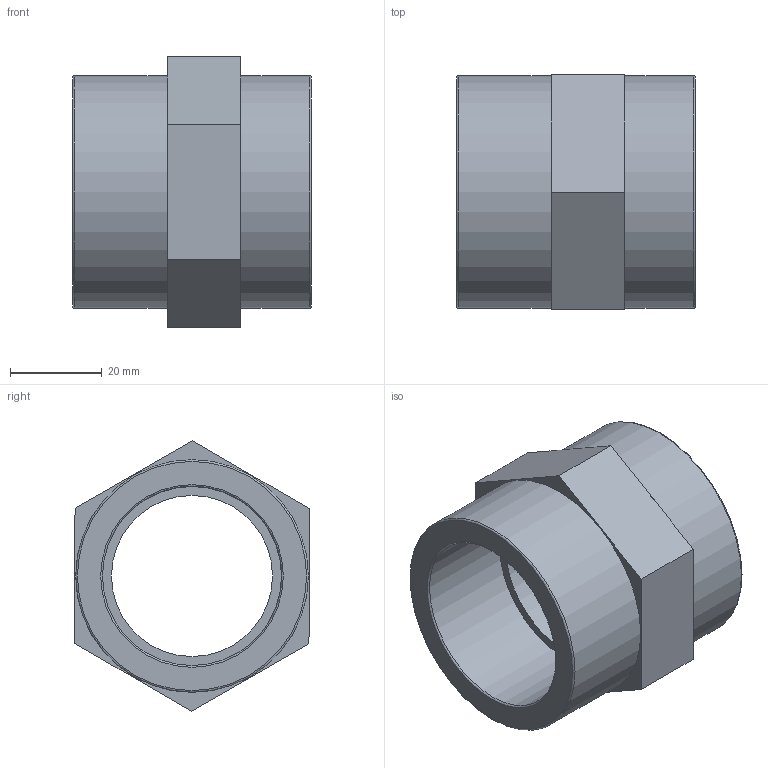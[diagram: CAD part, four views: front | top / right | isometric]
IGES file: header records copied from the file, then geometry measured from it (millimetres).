
Global section: file name: 050101013.ipt; native system: Autodesk Inventor 2015; preprocessor: unknown; author: KIM; date: 20171207.164038; units: millimetre
Bounding box: 52 x 51.08 x 58.89 mm (x, y, z)
Volume: 48367.7 mm3; surface area: 17299.6 mm2
Topology: 1 solids, 1 shells, 21 faces, 55 edges, 40 vertices
Faces by surface type: plane 12, revolution 7, cylinder 2
Full cylindrical faces by diameter (mm): 50.638 x2
